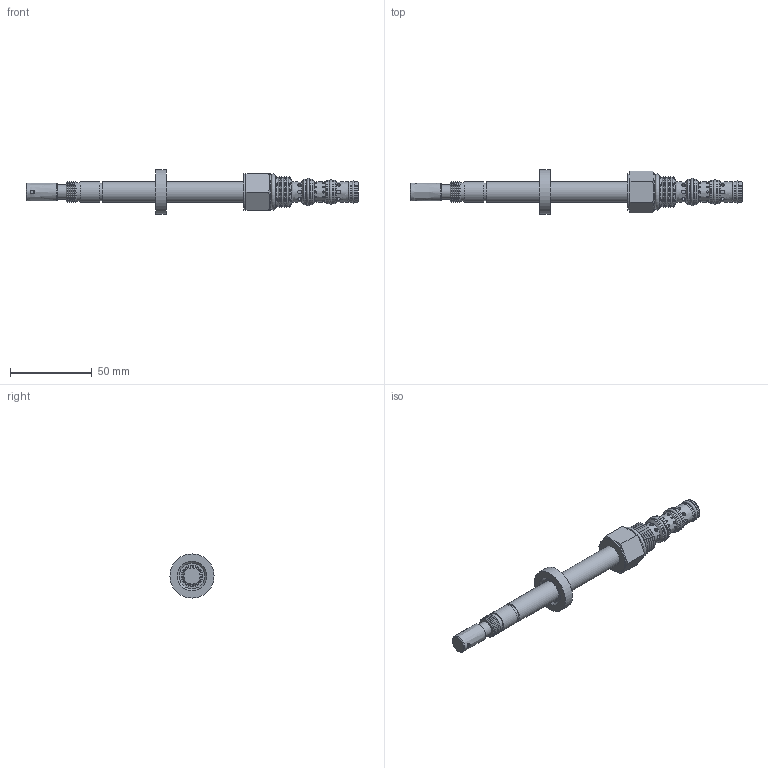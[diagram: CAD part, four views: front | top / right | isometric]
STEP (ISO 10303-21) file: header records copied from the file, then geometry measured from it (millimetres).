
FILE_DESCRIPTION((''),'2;1');
FILE_NAME('U:\sat files\PQS4P0P.stp','2009-09-09T09:03:00',('Dan'),(''),'Autodesk Inventor 2009','Autodesk Inventor 2009','');
FILE_SCHEMA(('AUTOMOTIVE_DESIGN { 1 0 10303 214 1 1 1 1 }'));
Length unit declared in the file: inch
Products named in the file (15): PQS4P0P; PQS4P0P1; PQS4P0P2; PQS4P0P3; PQS4P0P4; PQS4P0P5; PQS4P0P6; PQS4P0P7; PQS4P0P8; PQS4P0P9; PQS4P0P10; PQS4P0P11; PQS4P0P12; PQS4P0P13; PQS4P0P14
Assembly tree (14 placements, depth 2):
  PQS4P0P
    PQS4P0P1
    PQS4P0P2
    PQS4P0P3
    PQS4P0P4
    PQS4P0P5
    PQS4P0P6
    PQS4P0P7
    PQS4P0P8
    PQS4P0P9
    PQS4P0P10
    PQS4P0P11
    PQS4P0P12
    PQS4P0P13
    PQS4P0P14
Bounding box: 203.19 x 26.99 x 26.99 mm (x, y, z)
Volume: 33617.7 mm3; surface area: 15364.8 mm2
Topology: 14 solids, 14 shells, 281 faces, 508 edges, 299 vertices
Faces by surface type: bspline 216, cylinder 43, cone 14, plane 8
Full cylindrical faces by diameter (mm): 6.35 x1, 13.081 x1, 26.988 x1
Entity records: 11432 total; most frequent: CARTESIAN_POINT 7224, ORIENTED_EDGE 616, DIRECTION 568, EDGE_LOOP 535, EDGE_CURVE 308, VERTEX_POINT 285, AXIS2_PLACEMENT_3D 281, FACE_OUTER_BOUND 281
